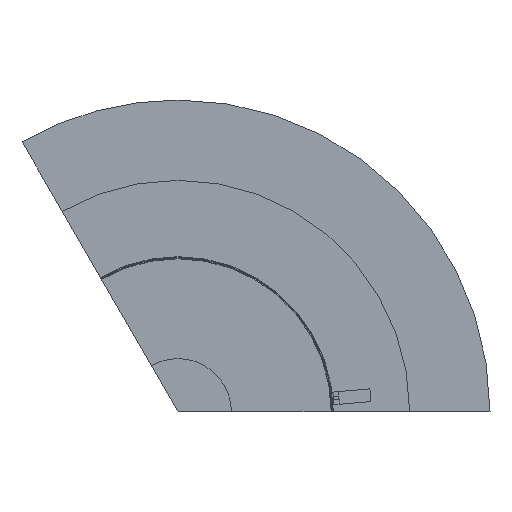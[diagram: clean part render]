
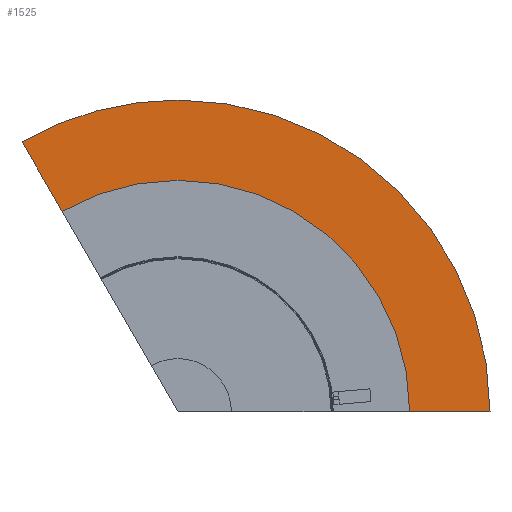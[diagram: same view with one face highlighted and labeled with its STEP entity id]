
A CAD part, top view. The second image highlights one B-rep face of the part: STEP entity #1525.
In plain terms, the highlighted planar face has unit normal (0, 0, 1).
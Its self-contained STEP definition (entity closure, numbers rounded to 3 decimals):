
#1525 = ADVANCED_FACE('fused_cell003',(#1526),#1541,.F.);
#1526 = FACE_BOUND('',#1527,.F.);
#1527 = EDGE_LOOP('',(#1528,#1556,#1577,#1593,#1614,#1635));
#1528 = ORIENTED_EDGE('',*,*,#1529,.T.);
#1529 = EDGE_CURVE('',#1530,#1532,#1534,.T.);
#1530 = VERTEX_POINT('',#1531);
#1531 = CARTESIAN_POINT('',(89.115,0.,0.));
#1532 = VERTEX_POINT('',#1533);
#1533 = CARTESIAN_POINT('',(0.,89.115,0.));
#1534 = SURFACE_CURVE('',#1535,(#1540),.PCURVE_S1.);
#1535 = CIRCLE('',#1536,89.115);
#1536 = AXIS2_PLACEMENT_3D('',#1537,#1538,#1539);
#1537 = CARTESIAN_POINT('',(0.,0.,0.));
#1538 = DIRECTION('',(0.,0.,1.));
#1539 = DIRECTION('',(1.,0.,-0.));
#1540 = PCURVE('',#1541,#1546);
#1541 = PLANE('',#1542);
#1542 = AXIS2_PLACEMENT_3D('',#1543,#1544,#1545);
#1543 = CARTESIAN_POINT('',(40.764,71.603,0.));
#1544 = DIRECTION('',(-0.,-0.,-1.));
#1545 = DIRECTION('',(-1.,0.,0.));
#1546 = DEFINITIONAL_REPRESENTATION('',(#1547),#1555);
#1547 = ( BOUNDED_CURVE() B_SPLINE_CURVE(2,(#1548,#1549,#1550,#1551,
#1552,#1553,#1554),.UNSPECIFIED.,.T.,.F.) B_SPLINE_CURVE_WITH_KNOTS((1,2
    ,2,2,2,1),(-2.094,0.,2.094,4.189,
6.283,8.378),.UNSPECIFIED.) CURVE() 
GEOMETRIC_REPRESENTATION_ITEM() RATIONAL_B_SPLINE_CURVE((1.,0.5,1.,0.5,
1.,0.5,1.)) REPRESENTATION_ITEM('') );
#1548 = CARTESIAN_POINT('',(-48.351,-71.603));
#1549 = CARTESIAN_POINT('',(-48.351,82.749));
#1550 = CARTESIAN_POINT('',(85.321,5.573));
#1551 = CARTESIAN_POINT('',(218.994,-71.603));
#1552 = CARTESIAN_POINT('',(85.321,-148.779));
#1553 = CARTESIAN_POINT('',(-48.351,-225.955));
#1554 = CARTESIAN_POINT('',(-48.351,-71.603));
#1555 = ( GEOMETRIC_REPRESENTATION_CONTEXT(2) 
PARAMETRIC_REPRESENTATION_CONTEXT() REPRESENTATION_CONTEXT('2D SPACE',''
  ) );
#1556 = ORIENTED_EDGE('',*,*,#1557,.T.);
#1557 = EDGE_CURVE('',#1532,#1558,#1560,.T.);
#1558 = VERTEX_POINT('',#1559);
#1559 = CARTESIAN_POINT('',(-44.558,77.176,0.));
#1560 = SURFACE_CURVE('',#1561,(#1566),.PCURVE_S1.);
#1561 = CIRCLE('',#1562,89.115);
#1562 = AXIS2_PLACEMENT_3D('',#1563,#1564,#1565);
#1563 = CARTESIAN_POINT('',(0.,0.,0.));
#1564 = DIRECTION('',(0.,0.,1.));
#1565 = DIRECTION('',(0.,1.,-0.));
#1566 = PCURVE('',#1541,#1567);
#1567 = DEFINITIONAL_REPRESENTATION('',(#1568),#1576);
#1568 = ( BOUNDED_CURVE() B_SPLINE_CURVE(2,(#1569,#1570,#1571,#1572,
#1573,#1574,#1575),.UNSPECIFIED.,.T.,.F.) B_SPLINE_CURVE_WITH_KNOTS((1,2
    ,2,2,2,1),(-2.094,0.,2.094,4.189,
6.283,8.378),.UNSPECIFIED.) CURVE() 
GEOMETRIC_REPRESENTATION_ITEM() RATIONAL_B_SPLINE_CURVE((1.,0.5,1.,0.5,
1.,0.5,1.)) REPRESENTATION_ITEM('') );
#1569 = CARTESIAN_POINT('',(40.764,17.512));
#1570 = CARTESIAN_POINT('',(195.115,17.512));
#1571 = CARTESIAN_POINT('',(117.939,-116.16));
#1572 = CARTESIAN_POINT('',(40.764,-249.833));
#1573 = CARTESIAN_POINT('',(-36.412,-116.16));
#1574 = CARTESIAN_POINT('',(-113.588,17.512));
#1575 = CARTESIAN_POINT('',(40.764,17.512));
#1576 = ( GEOMETRIC_REPRESENTATION_CONTEXT(2) 
PARAMETRIC_REPRESENTATION_CONTEXT() REPRESENTATION_CONTEXT('2D SPACE',''
  ) );
#1577 = ORIENTED_EDGE('',*,*,#1578,.F.);
#1578 = EDGE_CURVE('left',#1579,#1558,#1581,.T.);
#1579 = VERTEX_POINT('',#1580);
#1580 = CARTESIAN_POINT('',(-60.,103.923,0.));
#1581 = SURFACE_CURVE('',#1582,(#1586),.PCURVE_S1.);
#1582 = LINE('',#1583,#1584);
#1583 = CARTESIAN_POINT('',(-60.,103.923,0.));
#1584 = VECTOR('',#1585,1.);
#1585 = DIRECTION('',(0.5,-0.866,0.));
#1586 = PCURVE('',#1541,#1587);
#1587 = DEFINITIONAL_REPRESENTATION('',(#1588),#1592);
#1588 = LINE('',#1589,#1590);
#1589 = CARTESIAN_POINT('',(100.764,32.32));
#1590 = VECTOR('',#1591,1.);
#1591 = DIRECTION('',(-0.5,-0.866));
#1592 = ( GEOMETRIC_REPRESENTATION_CONTEXT(2) 
PARAMETRIC_REPRESENTATION_CONTEXT() REPRESENTATION_CONTEXT('2D SPACE',''
  ) );
#1593 = ORIENTED_EDGE('',*,*,#1594,.F.);
#1594 = EDGE_CURVE('infini',#1595,#1579,#1597,.T.);
#1595 = VERTEX_POINT('',#1596);
#1596 = CARTESIAN_POINT('',(0.,120.,0.));
#1597 = SURFACE_CURVE('',#1598,(#1603),.PCURVE_S1.);
#1598 = CIRCLE('',#1599,120.);
#1599 = AXIS2_PLACEMENT_3D('',#1600,#1601,#1602);
#1600 = CARTESIAN_POINT('',(0.,0.,0.)
  );
#1601 = DIRECTION('',(0.,0.,1.));
#1602 = DIRECTION('',(0.,1.,-0.));
#1603 = PCURVE('',#1541,#1604);
#1604 = DEFINITIONAL_REPRESENTATION('',(#1605),#1613);
#1605 = ( BOUNDED_CURVE() B_SPLINE_CURVE(2,(#1606,#1607,#1608,#1609,
#1610,#1611,#1612),.UNSPECIFIED.,.T.,.F.) B_SPLINE_CURVE_WITH_KNOTS((1,2
    ,2,2,2,1),(-2.094,0.,2.094,4.189,
6.283,8.378),.UNSPECIFIED.) CURVE() 
GEOMETRIC_REPRESENTATION_ITEM() RATIONAL_B_SPLINE_CURVE((1.,0.5,1.,0.5,
1.,0.5,1.)) REPRESENTATION_ITEM('') );
#1606 = CARTESIAN_POINT('',(40.764,48.397));
#1607 = CARTESIAN_POINT('',(248.61,48.397));
#1608 = CARTESIAN_POINT('',(144.687,-131.603));
#1609 = CARTESIAN_POINT('',(40.764,-311.603));
#1610 = CARTESIAN_POINT('',(-63.16,-131.603));
#1611 = CARTESIAN_POINT('',(-167.083,48.397));
#1612 = CARTESIAN_POINT('',(40.764,48.397));
#1613 = ( GEOMETRIC_REPRESENTATION_CONTEXT(2) 
PARAMETRIC_REPRESENTATION_CONTEXT() REPRESENTATION_CONTEXT('2D SPACE',''
  ) );
#1614 = ORIENTED_EDGE('',*,*,#1615,.F.);
#1615 = EDGE_CURVE('infini',#1616,#1595,#1618,.T.);
#1616 = VERTEX_POINT('',#1617);
#1617 = CARTESIAN_POINT('',(120.,0.,0.));
#1618 = SURFACE_CURVE('',#1619,(#1624),.PCURVE_S1.);
#1619 = CIRCLE('',#1620,120.);
#1620 = AXIS2_PLACEMENT_3D('',#1621,#1622,#1623);
#1621 = CARTESIAN_POINT('',(0.,0.,0.));
#1622 = DIRECTION('',(0.,0.,1.));
#1623 = DIRECTION('',(1.,0.,-0.));
#1624 = PCURVE('',#1541,#1625);
#1625 = DEFINITIONAL_REPRESENTATION('',(#1626),#1634);
#1626 = ( BOUNDED_CURVE() B_SPLINE_CURVE(2,(#1627,#1628,#1629,#1630,
#1631,#1632,#1633),.UNSPECIFIED.,.T.,.F.) B_SPLINE_CURVE_WITH_KNOTS((1,2
    ,2,2,2,1),(-2.094,0.,2.094,4.189,
6.283,8.378),.UNSPECIFIED.) CURVE() 
GEOMETRIC_REPRESENTATION_ITEM() RATIONAL_B_SPLINE_CURVE((1.,0.5,1.,0.5,
1.,0.5,1.)) REPRESENTATION_ITEM('') );
#1627 = CARTESIAN_POINT('',(-79.236,-71.603));
#1628 = CARTESIAN_POINT('',(-79.236,136.243));
#1629 = CARTESIAN_POINT('',(100.764,32.32));
#1630 = CARTESIAN_POINT('',(280.764,-71.603));
#1631 = CARTESIAN_POINT('',(100.764,-175.526));
#1632 = CARTESIAN_POINT('',(-79.236,-279.449));
#1633 = CARTESIAN_POINT('',(-79.236,-71.603));
#1634 = ( GEOMETRIC_REPRESENTATION_CONTEXT(2) 
PARAMETRIC_REPRESENTATION_CONTEXT() REPRESENTATION_CONTEXT('2D SPACE',''
  ) );
#1635 = ORIENTED_EDGE('',*,*,#1636,.F.);
#1636 = EDGE_CURVE('right',#1530,#1616,#1637,.T.);
#1637 = SURFACE_CURVE('',#1638,(#1642),.PCURVE_S1.);
#1638 = LINE('',#1639,#1640);
#1639 = CARTESIAN_POINT('',(89.115,0.,0.));
#1640 = VECTOR('',#1641,1.);
#1641 = DIRECTION('',(1.,0.,0.));
#1642 = PCURVE('',#1541,#1643);
#1643 = DEFINITIONAL_REPRESENTATION('',(#1644),#1648);
#1644 = LINE('',#1645,#1646);
#1645 = CARTESIAN_POINT('',(-48.351,-71.603));
#1646 = VECTOR('',#1647,1.);
#1647 = DIRECTION('',(-1.,0.));
#1648 = ( GEOMETRIC_REPRESENTATION_CONTEXT(2) 
PARAMETRIC_REPRESENTATION_CONTEXT() REPRESENTATION_CONTEXT('2D SPACE',''
  ) );
